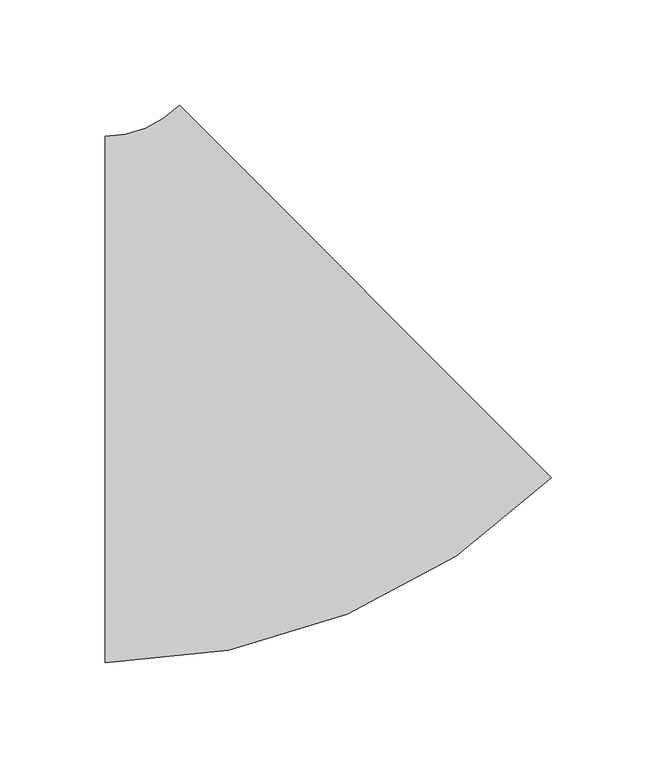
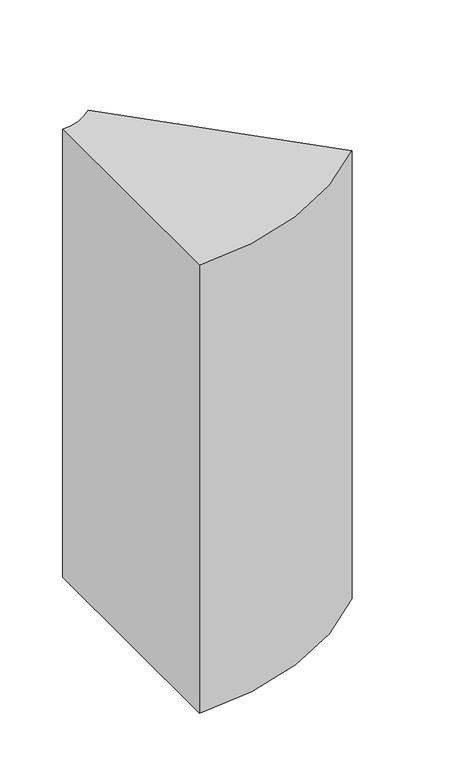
"""IFC4 building model written with IfcOpenShell, lengths in millimetres: duct fitting geometry, ADSK_ОтводВоздуховодов_Прямоугольный1 : Стандарт 2."""

from ifc_helpers import new_model, si_unit, point, frame, frame_2d, origin, place, context, project, spatial, polyline, circle_curve, trimmed, segment, composite_curve, outline, extrude, source, transform, mapped, element, save


def duct_fitting_a725a7fe(model_context):
    return source(origin(), model_context, "Body", "SweptSolid", [
        extrude(outline(composite_curve([segment(trimmed(circle_curve(frame_2d((-72.4828632, 175.0)), 300.0), [point((139.6398377, -37.1413674))], [point((-72.4828632, -125.0))], False, "CARTESIAN"), True, "CONTINUOUS"), segment(polyline([(-72.4828632, -125.0), (-72.4828632, 125.0)]), True, "CONTINUOUS"), segment(trimmed(circle_curve(frame_2d((-72.4828632, 175.0)), 50.0), [point((-72.4828632, 125.0))], [point((-37.1290797, 139.6431054))], True, "CARTESIAN"), True, "CONTINUOUS"), segment(polyline([(-37.1290797, 139.6431054), (139.6398377, -37.1413674)]), True, "CONTINUOUS")], self_intersect=False)), frame((0.0, 0.0, -250.0), z_axis=(0.0, 0.0, 1.0), x_axis=(1.0, 0.0, 0.0)), (0.0, 0.0, 1.0), 500.0),
    ])


if __name__ == "__main__":
    model = new_model("IFC4")
    model_context = context("Model", 3, world=origin())
    ifc_project = project(units=[si_unit("LENGTHUNIT", "METRE", prefix="MILLI")], contexts=[model_context])
    site = spatial("IfcSite", under=ifc_project)
    building = spatial("IfcBuilding", under=site)
    placement = place(None, origin())
    duct_fitting_shape = duct_fitting_a725a7fe(model_context)
    element("IfcDuctFitting", 1, ObjectType="ADSK_ОтводВоздуховодов_Прямоугольный1 : Стандарт 2", at=placement, inside=building, context=model_context, shape_type="MappedRepresentation", body=[
        mapped(duct_fitting_shape, transform((0.0, 0.0, 0.0), x_axis=(1.0, 0.0, 0.0), y_axis=(0.0, 1.0, 0.0), z_axis=(0.0, 0.0, 1.0))),
    ])
    save(model, "model.ifc")
